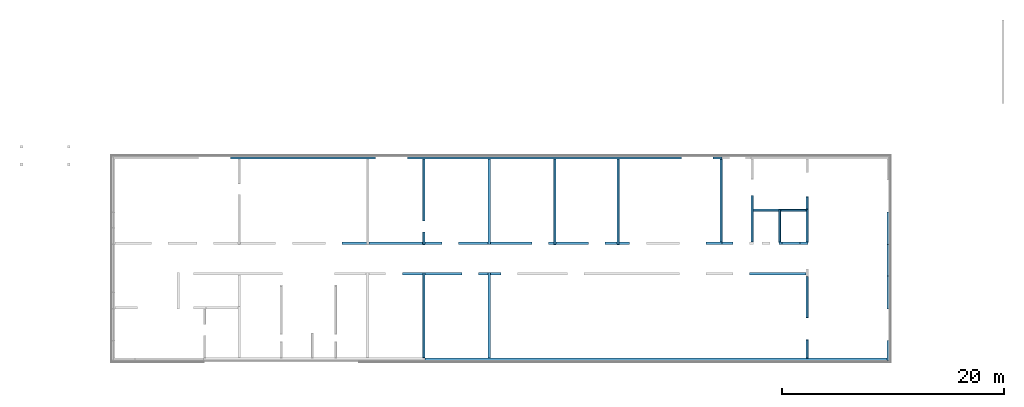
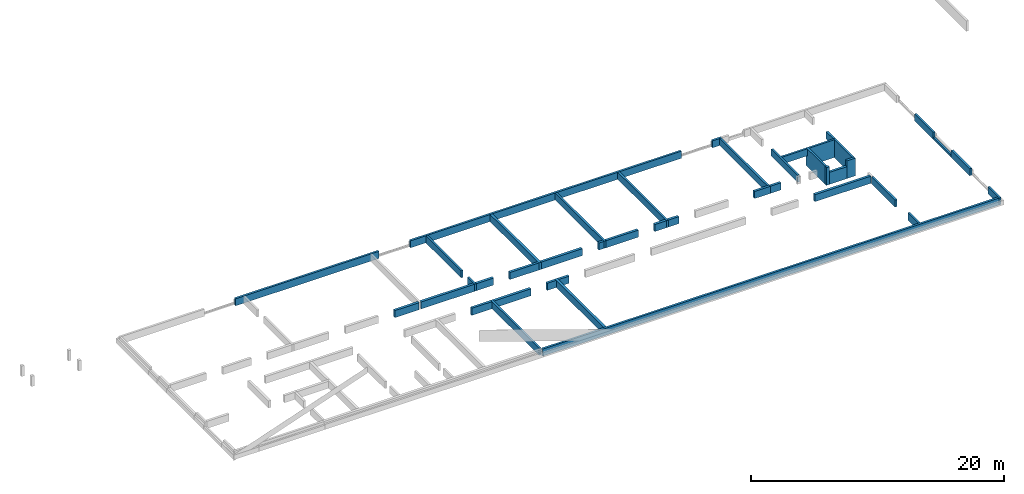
# One storey, part 3 of 7: 36 beams.
"""IFC2X3 building model written with IfcOpenShell, lengths in millimetres."""

from ifc_helpers import new_model, entity, si_unit, converted_unit, derived_unit, money_unit, direction, frame, origin_with_axes, place, context, subcontext, project, spatial, faceted_brep, material, type_object, element, save


model = new_model("IFC2X3")

# Units and contexts
model_context = context("Model", 3, precision=0.01, world=origin_with_axes(), true_north=direction((0.0, 1.0)))
body_context = subcontext(model_context, "Body", "Model", "MODEL_VIEW")
ifc_project = project(units=[si_unit("LENGTHUNIT", "METRE", prefix="MILLI"), si_unit("AREAUNIT", "SQUARE_METRE"), si_unit("VOLUMEUNIT", "CUBIC_METRE"), converted_unit("PLANEANGLEUNIT", "DEGREE", entity("IfcPlaneAngleMeasure", 0.0174532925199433), si_unit("PLANEANGLEUNIT", "RADIAN"), dimensions=[0, 0, 0, 0, 0, 0, 0]), money_unit("EUR"), converted_unit("TIMEUNIT", "Year", entity("IfcTimeMeasure", 31556926.0), si_unit("TIMEUNIT", "SECOND"), dimensions=[0, 0, 1, 0, 0, 0, 0]), si_unit("MASSUNIT", "GRAM", prefix="KILO"), si_unit("THERMODYNAMICTEMPERATUREUNIT", "DEGREE_CELSIUS"), si_unit("LUMINOUSINTENSITYUNIT", "LUMEN"), si_unit("ENERGYUNIT", "JOULE", prefix="MEGA"), derived_unit("THERMALCONDUCTANCEUNIT", [(si_unit("POWERUNIT", "WATT"), 1), (si_unit("LENGTHUNIT", "METRE"), -1), (si_unit("THERMODYNAMICTEMPERATUREUNIT", "KELVIN"), -1)]), derived_unit("SPECIFICHEATCAPACITYUNIT", [(si_unit("ENERGYUNIT", "JOULE"), 1), (si_unit("MASSUNIT", "GRAM", prefix="KILO"), -1), (si_unit("THERMODYNAMICTEMPERATUREUNIT", "KELVIN"), -1)]), derived_unit("MASSDENSITYUNIT", [(si_unit("MASSUNIT", "GRAM", prefix="KILO"), 1), (si_unit("VOLUMEUNIT", "CUBIC_METRE"), -1)])], contexts=[model_context])

# Site, building, storey
site_placement = place(None, origin_with_axes())
site = spatial("IfcSite", under=ifc_project, at=site_placement, Name="ÜBN Kinnistu Nimi -> SOLIBRI", CompositionType="ELEMENT")
building_placement = place(site_placement, origin_with_axes())
building = spatial("IfcBuilding", under=site, at=building_placement, Name="METK ARETUSKESKUS II", CompositionType="ELEMENT")
storey_placement = place(building_placement, frame((0.0, 0.0, -1610.0), z_axis=(0.0, 0.0, 1.0), x_axis=(1.0, 0.0, 0.0)))
storey = spatial("IfcBuildingStorey", under=building, at=storey_placement, Name="Vundament", CompositionType="ELEMENT", Elevation=-1610.0)

# Beams
ifc_material_1 = material(Name="31 Konst: raudbetoon monoliitne")
beam_type_1 = type_object("IfcBeamType", Name="31 Konst: raudbetoon monoliitne 180", PredefinedType="BEAM")
beam_1_placement = place(storey_placement, frame((47935.00000475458, 20080.0, 1330.0), z_axis=(0.0, 0.0, 1.0), x_axis=(0.0, 1.0, 0.0)))
element("IfcBeam", 1, at=beam_1_placement, inside=storey, type_object=beam_type_1, material=ifc_material_1, ObjectType="BEAM", context=body_context, shape_type="Brep", body=[
    faceted_brep([(7654.999958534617, 0.0, 680.0000000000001), (7654.999958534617, 179.9999999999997, 680.0000000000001), (0.0, 179.9999999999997, 680.0000000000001), (0.0, 0.0, 680.0000000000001), (7654.999958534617, 0.0, 0.0), (7654.999958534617, 179.9999999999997, 0.0), (0.0, 179.9999999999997, 0.0), (0.0, 0.0, 0.0)], [[[0, 1, 2, 3]], [[1, 0, 4, 5]], [[1, 5, 6, 2]], [[7, 3, 2, 6]], [[4, 0, 3, 7]], [[5, 4, 7, 6]]]),
])
beam_2_placement = place(storey_placement, frame((82485.00000572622, 23690.00000000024, 1330.0), z_axis=(0.0, 0.0, 1.0), x_axis=(0.0, 1.0, 0.0)))
element("IfcBeam", 2, at=beam_2_placement, inside=storey, type_object=beam_type_1, material=ifc_material_1, ObjectType="BEAM", context=body_context, shape_type="Brep", body=[
    faceted_brep([(0.0, 0.0, 0.0), (3714.999958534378, 0.0, 0.0), (3714.999958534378, 0.0, 680.0000000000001), (0.0, 0.0, 680.0000000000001), (0.0, 180.0000000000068, 0.0), (3714.999958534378, 180.0000000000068, 0.0), (3714.999958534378, 180.0000000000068, 680.0000000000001), (0.0, 180.0000000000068, 680.0000000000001)], [[[0, 1, 2, 3]], [[4, 5, 1, 0]], [[5, 6, 2, 1]], [[3, 2, 6, 7]], [[4, 0, 3, 7]], [[7, 6, 5, 4]]]),
])
beam_3_placement = place(storey_placement, frame((82485.00000572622, 20030.0, 1330.0), z_axis=(0.0, 0.0, 1.0), x_axis=(0.0, 1.0, 0.0)))
element("IfcBeam", 3, at=beam_3_placement, inside=storey, type_object=beam_type_1, material=ifc_material_1, ObjectType="BEAM", context=body_context, shape_type="Brep", body=[
    faceted_brep([(0.0, 0.0, 680.0000000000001), (1660.000000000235, 0.0, 680.0000000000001), (1660.000000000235, 180.0000000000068, 680.0000000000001), (0.0, 180.0000000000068, 680.0000000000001), (0.0, 0.0, 0.0), (1660.000000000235, 0.0, 0.0), (1660.000000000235, 180.0000000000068, 0.0), (0.0, 180.0000000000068, 0.0)], [[[0, 1, 2, 3]], [[4, 5, 1, 0]], [[2, 1, 5, 6]], [[3, 2, 6, 7]], [[4, 0, 3, 7]], [[7, 6, 5, 4]]]),
])
beam_4_placement = place(storey_placement, frame((82485.00000572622, 33464.94144067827, 1330.0), z_axis=(0.0, 0.0, 1.0), x_axis=(0.0, 1.0, 0.0)))
element("IfcBeam", 4, at=beam_4_placement, inside=storey, type_object=beam_type_1, material=ifc_material_1, ObjectType="BEAM", context=body_context, shape_type="Brep", body=[
    faceted_brep([(1105.058566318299, 180.0000000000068, 680.0000000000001), (0.0, 180.0000000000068, 680.0000000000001), (0.0, 0.0, 680.0000000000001), (1105.058566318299, 0.0, 680.0000000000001), (1105.058566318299, 180.0000000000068, 0.0), (0.0, 180.0000000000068, 0.0), (0.0, 0.0, 0.0), (1105.058566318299, 0.0, 0.0)], [[[0, 1, 2, 3]], [[4, 5, 1, 0]], [[1, 5, 6, 2]], [[3, 2, 6, 7]], [[7, 4, 0, 3]], [[7, 6, 5, 4]]]),
])
beam_5_placement = place(storey_placement, frame((47935.00000475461, 32400.00000683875, 1330.0), z_axis=(0.0, 0.0, 1.0), x_axis=(0.0, 1.0, 0.0)))
element("IfcBeam", 5, at=beam_5_placement, inside=storey, type_object=beam_type_1, material=ifc_material_1, ObjectType="BEAM", context=body_context, shape_type="Brep", body=[
    faceted_brep([(5570.000000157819, 0.0, 680.0000000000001), (5570.000000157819, 179.9999999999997, 680.0000000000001), (0.0, 179.9999999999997, 680.0000000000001), (0.0, 0.0, 680.0000000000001), (5570.000000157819, 0.0, 0.0), (5570.000000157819, 179.9999999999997, 0.0), (0.0, 179.9999999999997, 0.0), (0.0, 0.0, 0.0)], [[[0, 1, 2, 3]], [[1, 0, 4, 5]], [[1, 5, 6, 2]], [[7, 3, 2, 6]], [[4, 0, 3, 7]], [[5, 4, 7, 6]]]),
])
beam_6_placement = place(storey_placement, frame((77525.00000107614, 30265.00000683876, 1330.0), z_axis=(0.0, 0.0, 1.0), x_axis=(0.0, 1.0, 0.0)))
element("IfcBeam", 6, at=beam_6_placement, inside=storey, type_object=beam_type_1, material=ifc_material_1, ObjectType="BEAM", context=body_context, shape_type="Brep", body=[
    faceted_brep([(230.0000000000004, 0.0, 680.0000000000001), (4405.000000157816, 0.0, 680.0000000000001), (4405.000000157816, 180.0000000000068, 680.0000000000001), (230.0000000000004, 180.0000000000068, 680.0000000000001), (230.0000000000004, 0.0, 0.0), (4405.000000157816, 0.0, 0.0), (4405.000000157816, 180.0000000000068, 0.0), (230.0000000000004, 180.0000000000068, 0.0)], [[[0, 1, 2, 3]], [[4, 5, 1, 0]], [[2, 1, 5, 6]], [[3, 2, 6, 7]], [[4, 0, 3, 7]], [[7, 6, 5, 4]]]),
])
beam_7_placement = place(storey_placement, frame((82485.00000572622, 30265.00000683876, 310.0000000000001), z_axis=(0.0, 0.0, 1.0), x_axis=(0.0, 1.0, 0.0)))
element("IfcBeam", 7, at=beam_7_placement, inside=storey, type_object=beam_type_1, material=ifc_material_1, ObjectType="BEAM", context=body_context, shape_type="Brep", body=[
    faceted_brep([(230.0000000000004, 0.0, 1700.0), (230.0000000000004, 0.0, 0.0), (3199.941433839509, 0.0, 0.0), (3199.941433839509, 0.0, 1020.0), (3199.941433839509, 0.0, 1700.0), (230.0000000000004, 180.0000000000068, 0.0), (230.0000000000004, 180.0000000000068, 1700.0), (3199.941433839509, 180.0000000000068, 0.0), (3199.941433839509, 180.0000000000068, 1020.0), (3199.941433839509, 180.0000000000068, 1700.0)], [[[0, 1, 2, 3, 4]], [[5, 1, 0, 6]], [[1, 5, 7, 2]], [[2, 7, 8, 3]], [[9, 4, 3, 8]], [[6, 0, 4, 9]], [[6, 9, 8, 7, 5]]]),
])
beam_8_placement = place(storey_placement, frame((79835.00000107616, 30265.00000683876, 310.0000000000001), z_axis=(0.0, 0.0, 1.0), x_axis=(0.0, 1.0, 0.0)))
element("IfcBeam", 8, at=beam_8_placement, inside=storey, type_object=beam_type_1, material=ifc_material_1, ObjectType="BEAM", context=body_context, shape_type="Brep", body=[
    faceted_brep([(230.0000000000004, -180.0000000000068, 0.0), (3199.941433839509, -180.0000000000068, 0.0), (3199.941433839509, -180.0000000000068, 1020.0), (3199.941433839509, -180.0000000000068, 1700.0), (230.0000000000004, -180.0000000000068, 1700.0), (230.0000000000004, 0.0, 0.0), (3199.941433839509, 0.0, 0.0), (3199.941433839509, 0.0, 1020.0), (3199.941433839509, 0.0, 1700.0), (230.0000000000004, 0.0, 1700.0)], [[[0, 1, 2, 3, 4]], [[0, 5, 6, 1]], [[1, 6, 7, 2]], [[2, 7, 8, 3]], [[9, 4, 3, 8]], [[5, 0, 4, 9]], [[5, 9, 8, 7, 6]]]),
])
beam_9_placement = place(storey_placement, frame((47935.00000475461, 30265.00000683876, 1330.0), z_axis=(0.0, 0.0, 1.0), x_axis=(0.0, 1.0, 0.0)))
element("IfcBeam", 9, at=beam_9_placement, inside=storey, type_object=beam_type_1, material=ifc_material_1, ObjectType="BEAM", context=body_context, shape_type="Brep", body=[
    faceted_brep([(0.0, 0.0, 680.0000000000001), (1134.999999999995, 0.0, 680.0000000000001), (1134.999999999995, 179.9999999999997, 680.0000000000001), (0.0, 179.9999999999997, 680.0000000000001), (0.0, 0.0, 0.0), (1134.999999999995, 0.0, 0.0), (1134.999999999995, 179.9999999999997, 0.0), (0.0, 179.9999999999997, 0.0)], [[[0, 1, 2, 3]], [[4, 5, 1, 0]], [[2, 1, 5, 6]], [[3, 2, 6, 7]], [[4, 0, 3, 7]], [[7, 6, 5, 4]]]),
])
beam_10_placement = place(storey_placement, frame((65435.00000199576, 30265.00000683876, 1330.0), z_axis=(0.0, 0.0, 1.0), x_axis=(0.0, 1.0, 0.0)))
element("IfcBeam", 10, at=beam_10_placement, inside=storey, type_object=beam_type_1, material=ifc_material_1, ObjectType="BEAM", context=body_context, shape_type="Brep", body=[
    faceted_brep([(7705.000000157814, 0.0, 680.0000000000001), (7705.000000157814, 180.0000000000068, 680.0000000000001), (0.0, 180.0000000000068, 680.0000000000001), (0.0, 0.0, 680.0000000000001), (7705.000000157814, 0.0, 0.0), (7705.000000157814, 180.0000000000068, 0.0), (0.0, 180.0000000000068, 0.0), (0.0, 0.0, 0.0)], [[[0, 1, 2, 3]], [[1, 0, 4, 5]], [[1, 5, 6, 2]], [[7, 3, 2, 6]], [[4, 0, 3, 7]], [[5, 4, 7, 6]]]),
])
beam_11_placement = place(storey_placement, frame((79835.00000107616, 33464.9414406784, 1330.0), z_axis=(0.0, 0.0, 1.0), x_axis=(-1.0, 0.0, 0.0)))
element("IfcBeam", 11, at=beam_11_placement, inside=storey, type_object=beam_type_1, material=ifc_material_1, ObjectType="BEAM", context=body_context, shape_type="Brep", body=[
    faceted_brep([(2310.000000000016, 179.9999999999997, 680.0000000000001), (0.0, 179.9999999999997, 680.0), (0.0, 1.27897692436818e-10, 680.0), (2310.000000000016, 0.0, 680.0000000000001), (2310.000000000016, 179.9999999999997, 0.0), (0.0, 179.9999999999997, 0.0), (0.0, 1.27897692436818e-10, 0.0), (2310.000000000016, 0.0, 0.0)], [[[0, 1, 2, 3]], [[4, 5, 1, 0]], [[5, 6, 2, 1]], [[3, 2, 6, 7]], [[7, 4, 0, 3]], [[7, 6, 5, 4]]]),
])
beam_12_placement = place(storey_placement, frame((82485.00000572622, 33464.94144067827, 310.0000000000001), z_axis=(0.0, 0.0, 1.0), x_axis=(-1.0, 0.0, 0.0)))
element("IfcBeam", 12, at=beam_12_placement, inside=storey, type_object=beam_type_1, material=ifc_material_1, ObjectType="BEAM", context=body_context, shape_type="Brep", body=[
    faceted_brep([(2470.00000465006, 1.20792265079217e-10, 0.0), (2470.00000465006, 1.20792265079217e-10, 1700.0), (180.0000000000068, 0.0, 1700.0), (180.0000000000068, 0.0, 1020.0), (180.0000000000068, 0.0, 0.0), (2470.000004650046, 180.0000000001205, 0.0), (2470.000004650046, 180.0000000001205, 1700.0), (179.9999999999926, 180.0000000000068, 1700.0), (179.9999999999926, 180.0000000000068, 0.0)], [[[0, 1, 2, 3, 4]], [[5, 6, 1, 0]], [[2, 1, 6, 7]], [[7, 8, 4, 3, 2]], [[8, 5, 0, 4]], [[7, 6, 5, 8]]]),
])
beam_13_placement = place(storey_placement, frame((59735.00000291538, 30265.00000683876, 1330.0), z_axis=(0.0, 0.0, 1.0), x_axis=(0.0, 1.0, 0.0)))
element("IfcBeam", 13, at=beam_13_placement, inside=storey, type_object=beam_type_1, material=ifc_material_1, ObjectType="BEAM", context=body_context, shape_type="Brep", body=[
    faceted_brep([(7705.000000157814, 0.0, 680.0000000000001), (7705.000000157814, 179.9999999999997, 680.0000000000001), (0.0, 179.9999999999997, 680.0000000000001), (0.0, 0.0, 680.0000000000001), (7705.000000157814, 0.0, 0.0), (7705.000000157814, 179.9999999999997, 0.0), (0.0, 179.9999999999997, 0.0), (0.0, 0.0, 0.0)], [[[0, 1, 2, 3]], [[1, 0, 4, 5]], [[1, 5, 6, 2]], [[7, 3, 2, 6]], [[4, 0, 3, 7]], [[5, 4, 7, 6]]]),
])
beam_type_2 = type_object("IfcBeamType", Name="31 Konst: raudbetoon monoliitne 230", PredefinedType="BEAM")
beam_14_placement = place(storey_placement, frame((80125.00000107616, 30265.00000683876, 310.0000000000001), z_axis=(0.0, 0.0, 1.0), x_axis=(1.0, 0.0, 0.0)))
element("IfcBeam", 14, at=beam_14_placement, inside=storey, type_object=beam_type_2, material=ifc_material_1, ObjectType="BEAM", context=body_context, shape_type="Brep", body=[
    faceted_brep([(0.0, 0.0, 1150.0), (1600.000000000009, 0.0, 1150.0), (1600.000000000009, 230.0000000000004, 1150.0), (0.0, 230.0000000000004, 1150.0), (0.0, 0.0, 0.0), (1600.000000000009, 0.0, 0.0), (1600.000000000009, 230.0000000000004, 0.0), (0.0, 230.0000000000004, 0.0)], [[[0, 1, 2, 3]], [[4, 5, 1, 0]], [[2, 1, 5, 6]], [[3, 2, 6, 7]], [[4, 0, 3, 7]], [[7, 6, 5, 4]]]),
])
beam_15_placement = place(storey_placement, frame((53839.99999999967, 30265.00000683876, 1330.0), z_axis=(0.0, 0.0, 1.0), x_axis=(0.0, 1.0, 0.0)))
element("IfcBeam", 15, at=beam_15_placement, inside=storey, type_object=beam_type_2, material=ifc_material_1, ObjectType="BEAM", context=body_context, shape_type="Brep", body=[
    faceted_brep([(7705.000000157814, 0.0, 680.0000000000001), (7705.000000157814, 229.9999999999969, 680.0000000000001), (0.0, 229.9999999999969, 680.0000000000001), (0.0, 0.0, 680.0000000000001), (7705.000000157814, 0.0, 0.0), (7705.000000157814, 229.9999999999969, 0.0), (0.0, 229.9999999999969, 0.0), (0.0, 0.0, 0.0)], [[[0, 1, 2, 3]], [[1, 0, 4, 5]], [[1, 5, 6, 2]], [[7, 3, 2, 6]], [[4, 0, 3, 7]], [[5, 4, 7, 6]]]),
])
beam_16_placement = place(storey_placement, frame((74735.00000107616, 30265.00000683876, 1330.0), z_axis=(0.0, 0.0, 1.0), x_axis=(1.0, 0.0, 0.0)))
element("IfcBeam", 16, at=beam_16_placement, inside=storey, type_object=beam_type_2, material=ifc_material_1, ObjectType="BEAM", context=body_context, shape_type="Brep", body=[
    faceted_brep([(954.9999999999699, 230.0000000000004, 680.0000000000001), (0.0, 230.0000000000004, 680.0000000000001), (0.0, 0.0, 680.0000000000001), (954.9999999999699, 0.0, 680.0000000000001), (954.9999999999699, 230.0000000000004, 0.0), (0.0, 230.0000000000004, 0.0), (0.0, 0.0, 0.0), (954.9999999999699, 0.0, 0.0)], [[[0, 1, 2, 3]], [[4, 5, 1, 0]], [[1, 5, 6, 2]], [[3, 2, 6, 7]], [[7, 4, 0, 3]], [[7, 6, 5, 4]]]),
])
beam_17_placement = place(storey_placement, frame((53839.99997368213, 20030.0, 1330.0), z_axis=(0.0, 0.0, 1.0), x_axis=(0.0, 1.0, 0.0)))
element("IfcBeam", 17, at=beam_17_placement, inside=storey, type_object=beam_type_2, material=ifc_material_1, ObjectType="BEAM", context=body_context, shape_type="Brep", body=[
    faceted_brep([(7704.99995853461, 0.0, 680.0000000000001), (7704.99995853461, 229.9999999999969, 680.0000000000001), (0.0, 229.9999999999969, 680.0000000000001), (0.0, 0.0, 680.0000000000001), (7704.99995853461, 0.0, 0.0), (7704.99995853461, 229.9999999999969, 0.0), (0.0, 229.9999999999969, 0.0), (0.0, 0.0, 0.0)], [[[0, 1, 2, 3]], [[1, 0, 4, 5]], [[1, 5, 6, 2]], [[7, 3, 2, 6]], [[4, 0, 3, 7]], [[5, 4, 7, 6]]]),
])
beam_18_placement = place(storey_placement, frame((79830.00000107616, 30265.00000683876, 310.0000000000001), z_axis=(0.0, 0.0, 1.0), x_axis=(1.0, 0.0, 0.0)))
element("IfcBeam", 18, at=beam_18_placement, inside=storey, type_object=beam_type_2, material=ifc_material_1, ObjectType="BEAM", context=body_context, shape_type="Brep", body=[
    faceted_brep([(0.0, 0.0, 1700.0), (295.0000000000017, 0.0, 1700.0), (295.0000000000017, 230.0000000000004, 1700.0), (0.0, 230.0000000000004, 1700.0), (0.0, 0.0, 0.0), (295.0000000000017, 0.0, 0.0), (295.0000000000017, 230.0000000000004, 0.0), (0.0, 230.0000000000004, 0.0)], [[[0, 1, 2, 3]], [[4, 5, 1, 0]], [[2, 1, 5, 6]], [[3, 2, 6, 7]], [[4, 0, 3, 7]], [[7, 6, 5, 4]]]),
])
beam_19_placement = place(storey_placement, frame((81725.00000107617, 30265.00000683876, 310.0000000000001), z_axis=(0.0, 0.0, 1.0), x_axis=(1.0, 0.0, 0.0)))
element("IfcBeam", 19, at=beam_19_placement, inside=storey, type_object=beam_type_2, material=ifc_material_1, ObjectType="BEAM", context=body_context, shape_type="Brep", body=[
    faceted_brep([(760.0000046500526, 0.0, 1700.0), (760.0000046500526, 230.0000000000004, 1700.0), (0.0, 230.0000000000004, 1700.0), (0.0, 0.0, 1700.0), (760.0000046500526, 0.0, 0.0), (760.0000046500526, 230.0000000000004, 0.0), (0.0, 230.0000000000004, 0.0), (0.0, 0.0, 0.0)], [[[0, 1, 2, 3]], [[1, 0, 4, 5]], [[1, 5, 6, 2]], [[7, 3, 2, 6]], [[4, 0, 3, 7]], [[5, 4, 7, 6]]]),
])
beam_type_3 = type_object("IfcBeamType", Name="31 Konst: raudbetoon monoliitne 190", PredefinedType="BEAM")
beam_20_placement = place(storey_placement, frame((89569.99991283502, 27420.00000000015, 1330.0), z_axis=(0.0, 0.0, 1.0), x_axis=(0.0, -1.0, 0.0)))
element("IfcBeam", 20, at=beam_20_placement, inside=storey, type_object=beam_type_3, material=ifc_material_1, ObjectType="BEAM", context=body_context, shape_type="Brep", body=[
    faceted_brep([(0.0, 0.0, 680.0000000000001), (2939.999935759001, 0.0, 680.0000000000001), (2939.999935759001, 189.9999999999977, 680.0000000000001), (0.0, 189.9999999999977, 680.0000000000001), (0.0, 0.0, 0.0), (2939.999935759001, 0.0, 0.0), (2939.999935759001, 189.9999999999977, 0.0), (0.0, 189.9999999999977, 0.0)], [[[0, 1, 2, 3]], [[4, 5, 1, 0]], [[2, 1, 5, 6]], [[3, 2, 6, 7]], [[4, 0, 3, 7]], [[7, 6, 5, 4]]]),
])
beam_21_placement = place(storey_placement, frame((71049.99999999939, 37970.00000699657, 1330.0), z_axis=(0.0, 0.0, 1.0), x_axis=(-1.0, 0.0, 0.0)))
element("IfcBeam", 21, at=beam_21_placement, inside=storey, type_object=beam_type_3, material=ifc_material_1, ObjectType="BEAM", context=body_context, shape_type="Brep", body=[
    faceted_brep([(0.0, 0.0, 0.0), (24689.99303513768, 0.0, 0.0), (24689.99303513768, -190.0000000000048, 0.0), (0.0, -189.9999999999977, 0.0), (0.0, 0.0, 680.0000000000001), (24689.99303513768, 0.0, 680.0000000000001), (24689.99303513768, -190.0000000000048, 680.0000000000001), (0.0, -189.9999999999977, 680.0000000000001)], [[[0, 1, 2, 3]], [[4, 5, 1, 0]], [[2, 1, 5, 6]], [[3, 2, 6, 7]], [[4, 0, 3, 7]], [[7, 6, 5, 4]]]),
])
beam_22_placement = place(storey_placement, frame((43500.00690052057, 37970.00000699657, 1330.0), z_axis=(0.0, 0.0, 1.0), x_axis=(-1.0, 0.0, 0.0)))
element("IfcBeam", 22, at=beam_22_placement, inside=storey, type_object=beam_type_3, material=ifc_material_1, ObjectType="BEAM", context=body_context, shape_type="Brep", body=[
    faceted_brep([(0.0, 0.0, 0.0), (13090.00683617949, 0.0, 0.0), (13090.00683617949, -189.9999999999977, 0.0), (0.0, -189.9999999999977, 0.0), (0.0, 0.0, 680.0000000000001), (13090.00683617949, 0.0, 680.0000000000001), (13090.00683617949, -189.9999999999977, 680.0000000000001), (0.0, -189.9999999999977, 680.0000000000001)], [[[0, 1, 2, 3]], [[4, 5, 1, 0]], [[2, 1, 5, 6]], [[3, 2, 6, 7]], [[4, 0, 3, 7]], [[7, 6, 5, 4]]]),
])
beam_23_placement = place(storey_placement, frame((89569.99991283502, 21619.99993575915, 1330.0), z_axis=(0.0, 0.0, 1.0), x_axis=(0.0, -1.0, 0.0)))
element("IfcBeam", 23, at=beam_23_placement, inside=storey, type_object=beam_type_3, material=ifc_material_1, ObjectType="BEAM", context=body_context, shape_type="Brep", body=[
    faceted_brep([(1779.999935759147, 0.0, 680.0000000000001), (1779.999935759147, 189.9999999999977, 680.0000000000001), (0.0, 189.9999999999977, 680.0000000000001), (0.0, 0.0, 680.0000000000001), (1779.999935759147, 0.0, 0.0), (1779.999935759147, 189.9999999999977, 0.0), (0.0, 189.9999999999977, 0.0), (0.0, 0.0, 0.0)], [[[0, 1, 2, 3]], [[1, 0, 4, 5]], [[1, 5, 6, 2]], [[7, 3, 2, 6]], [[4, 0, 3, 7]], [[5, 4, 7, 6]]]),
])
beam_24_placement = place(storey_placement, frame((47940.00000288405, 20030.0, 1330.0), z_axis=(0.0, 0.0, 1.0), x_axis=(1.0, 0.0, 0.0)))
element("IfcBeam", 24, at=beam_24_placement, inside=storey, type_object=beam_type_3, material=ifc_material_1, ObjectType="BEAM", context=body_context, shape_type="Brep", body=[
    faceted_brep([(41629.99990995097, 0.0, 0.0), (41629.99990995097, -189.9999999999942, 0.0), (0.0, -190.0000000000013, 0.0), (0.0, 0.0, 0.0), (41629.99990995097, 0.0, 680.0000000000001), (41629.99990995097, -189.9999999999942, 680.0000000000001), (0.0, -190.0000000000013, 680.0000000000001), (0.0, 0.0, 680.0000000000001)], [[[0, 1, 2, 3]], [[1, 0, 4, 5]], [[1, 5, 6, 2]], [[7, 3, 2, 6]], [[4, 0, 3, 7]], [[5, 4, 7, 6]]]),
])
beam_25_placement = place(storey_placement, frame((89569.99991283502, 33219.99993575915, 1330.0), z_axis=(0.0, 0.0, 1.0), x_axis=(0.0, -1.0, 0.0)))
element("IfcBeam", 25, at=beam_25_placement, inside=storey, type_object=beam_type_3, material=ifc_material_1, ObjectType="BEAM", context=body_context, shape_type="Brep", body=[
    faceted_brep([(0.0, 0.0, 680.0000000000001), (2939.999935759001, 0.0, 680.0000000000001), (2939.999935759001, 189.9999999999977, 680.0000000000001), (0.0, 189.9999999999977, 680.0000000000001), (0.0, 0.0, 0.0), (2939.999935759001, 0.0, 0.0), (2939.999935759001, 189.9999999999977, 0.0), (0.0, 189.9999999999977, 0.0)], [[[0, 1, 2, 3]], [[4, 5, 1, 0]], [[2, 1, 5, 6]], [[3, 2, 6, 7]], [[4, 0, 3, 7]], [[7, 6, 5, 4]]]),
])
beam_26_placement = place(storey_placement, frame((74735.00000107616, 37970.00000699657, 1330.0), z_axis=(0.0, 0.0, 1.0), x_axis=(-1.0, 0.0, 0.0)))
element("IfcBeam", 26, at=beam_26_placement, inside=storey, type_object=beam_type_3, material=ifc_material_1, ObjectType="BEAM", context=body_context, shape_type="Brep", body=[
    faceted_brep([(824.9999367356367, -189.9999999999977, 0.0), (0.0, -189.9999999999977, 0.0), (0.0, 0.0, 0.0), (824.9999367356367, 0.0, 0.0), (824.9999367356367, -189.9999999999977, 680.0000000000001), (0.0, -189.9999999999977, 680.0000000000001), (0.0, 0.0, 680.0000000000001), (824.9999367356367, 0.0, 680.0000000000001)], [[[0, 1, 2, 3]], [[4, 5, 1, 0]], [[1, 5, 6, 2]], [[3, 2, 6, 7]], [[7, 4, 0, 3]], [[7, 6, 5, 4]]]),
])
beam_27_placement = place(storey_placement, frame((89569.99991283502, 30280.00000000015, 1330.0), z_axis=(0.0, 0.0, 1.0), x_axis=(0.0, -1.0, 0.0)))
element("IfcBeam", 27, at=beam_27_placement, inside=storey, type_object=beam_type_3, material=ifc_material_1, ObjectType="BEAM", context=body_context, shape_type="Brep", body=[
    faceted_brep([(0.0, 0.0, 179.9999999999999), (2860.000000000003, 0.0, 179.9999999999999), (2860.000000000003, 189.9999999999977, 179.9999999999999), (0.0, 189.9999999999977, 179.9999999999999), (0.0, 0.0, 0.0), (2860.000000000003, 0.0, 0.0), (2860.000000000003, 189.9999999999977, 0.0), (0.0, 189.9999999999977, 0.0)], [[[0, 1, 2, 3]], [[4, 5, 1, 0]], [[2, 1, 5, 6]], [[3, 2, 6, 7]], [[4, 0, 3, 7]], [[7, 6, 5, 4]]]),
])
ifc_material_2 = material(Name="80 Siseviim: tolmutõke")
beam_type_4 = type_object("IfcBeamType", Name="80 Siseviim: tolmutõke 230", PredefinedType="BEAM")
beam_28_placement = place(storey_placement, frame((52789.99999999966, 27734.99995853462, 1330.0), z_axis=(0.0, 0.0, 1.0), x_axis=(1.0, 0.0, 0.0)))
element("IfcBeam", 28, at=beam_28_placement, inside=storey, type_object=beam_type_4, material=ifc_material_2, ObjectType="BEAM", context=body_context, shape_type="Brep", body=[
    faceted_brep([(819.999973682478, 0.0, 0.0), (819.999973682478, -230.0000000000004, 0.0), (0.0, -230.0000000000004, 0.0), (0.0, 0.0, 0.0), (819.999973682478, 0.0, 680.0000000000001), (819.999973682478, -230.0000000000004, 680.0000000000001), (0.0, -230.0000000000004, 680.0000000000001), (0.0, 0.0, 680.0000000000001)], [[[0, 1, 2, 3]], [[1, 0, 4, 5]], [[1, 5, 6, 2]], [[7, 3, 2, 6]], [[4, 0, 3, 7]], [[5, 4, 7, 6]]]),
    faceted_brep([(1049.999973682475, 0.0, 0.0), (1999.999999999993, 0.0, 0.0), (1999.999999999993, -230.0000000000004, 0.0), (1049.999973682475, -230.0000000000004, 0.0), (1049.999973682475, 0.0, 680.0000000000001), (1999.999999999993, 0.0, 680.0000000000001), (1999.999999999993, -230.0000000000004, 680.0000000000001), (1049.999973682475, -230.0000000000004, 680.0000000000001)], [[[0, 1, 2, 3]], [[4, 5, 1, 0]], [[2, 1, 5, 6]], [[3, 2, 6, 7]], [[4, 0, 3, 7]], [[7, 6, 5, 4]]]),
])
beam_29_placement = place(storey_placement, frame((77190.00000107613, 27734.99995853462, 1330.0), z_axis=(0.0, 0.0, 1.0), x_axis=(1.0, 0.0, 0.0)))
element("IfcBeam", 29, at=beam_29_placement, inside=storey, type_object=beam_type_4, material=ifc_material_2, ObjectType="BEAM", context=body_context, shape_type="Brep", body=[
    faceted_brep([(0.0, 0.0, 0.0), (5115.000004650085, 0.0, 0.0), (5115.000004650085, -230.0000000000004, 0.0), (0.0, -230.0000000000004, 0.0), (0.0, 0.0, 680.0000000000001), (5115.000004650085, 0.0, 680.0000000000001), (5115.000004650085, -230.0000000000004, 680.0000000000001), (0.0, -230.0000000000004, 680.0000000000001)], [[[0, 1, 2, 3]], [[4, 5, 1, 0]], [[6, 2, 1, 5]], [[3, 2, 6, 7]], [[7, 4, 0, 3]], [[7, 6, 5, 4]]]),
])
beam_30_placement = place(storey_placement, frame((45909.99996450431, 27734.99995853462, 1330.0), z_axis=(0.0, 0.0, 1.0), x_axis=(1.0, 0.0, 0.0)))
element("IfcBeam", 30, at=beam_30_placement, inside=storey, type_object=beam_type_4, material=ifc_material_2, ObjectType="BEAM", context=body_context, shape_type="Brep", body=[
    faceted_brep([(1845.00004025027, 0.0, 0.0), (1845.00004025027, -230.0000000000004, 0.0), (0.0, -230.0000000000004, 0.0), (0.0, 0.0, 0.0), (1845.00004025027, 0.0, 680.0000000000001), (1845.00004025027, -230.0000000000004, 680.0000000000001), (0.0, -230.0000000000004, 680.0000000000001), (0.0, 0.0, 680.0000000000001)], [[[0, 1, 2, 3]], [[1, 0, 4, 5]], [[1, 5, 6, 2]], [[7, 3, 2, 6]], [[4, 0, 3, 7]], [[5, 4, 7, 6]]]),
    faceted_brep([(2025.000040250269, 0.0, 0.0), (5380.000035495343, 0.0, 0.0), (5380.000035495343, -230.0000000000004, 0.0), (2025.000040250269, -230.0000000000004, 0.0), (2025.000040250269, 0.0, 680.0000000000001), (5380.000035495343, 0.0, 680.0000000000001), (5380.000035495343, -230.0000000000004, 680.0000000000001), (2025.000040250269, -230.0000000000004, 680.0000000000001)], [[[0, 1, 2, 3]], [[4, 5, 1, 0]], [[2, 1, 5, 6]], [[3, 2, 6, 7]], [[4, 0, 3, 7]], [[7, 6, 5, 4]]]),
])
beam_31_placement = place(storey_placement, frame((40490.00000285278, 30265.00000683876, 1330.0), z_axis=(0.0, 0.0, 1.0), x_axis=(1.0, 0.0, 0.0)))
element("IfcBeam", 31, at=beam_31_placement, inside=storey, type_object=beam_type_4, material=ifc_material_2, ObjectType="BEAM", context=body_context, shape_type="Brep", body=[
    faceted_brep([(2215.000000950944, 0.0, 680.0000000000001), (2215.000000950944, 230.0000000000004, 680.0000000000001), (0.0, 230.0000000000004, 680.0000000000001), (0.0, 0.0, 680.0000000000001), (2215.000000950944, 0.0, 0.0), (2215.000000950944, 230.0000000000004, 0.0), (0.0, 230.0000000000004, 0.0), (0.0, 0.0, 0.0)], [[[0, 1, 2, 3]], [[1, 0, 4, 5]], [[1, 5, 6, 2]], [[7, 3, 2, 6]], [[4, 0, 3, 7]], [[5, 4, 7, 6]]]),
    faceted_brep([(7265.000001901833, 0.0, 680.0000000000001), (7265.000001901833, 230.0000000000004, 680.0000000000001), (2395.000000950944, 230.0000000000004, 680.0000000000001), (2395.000000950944, 0.0, 680.0000000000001), (7265.000001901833, 0.0, 0.0), (7265.000001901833, 230.0000000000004, 0.0), (2395.000000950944, 230.0000000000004, 0.0), (2395.000000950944, 0.0, 0.0)], [[[0, 1, 2, 3]], [[1, 0, 4, 5]], [[1, 5, 6, 2]], [[7, 3, 2, 6]], [[4, 0, 3, 7]], [[5, 4, 7, 6]]]),
    faceted_brep([(7445.000001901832, 0.0, 680.0000000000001), (9000.000001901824, 0.0, 680.0000000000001), (9000.000001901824, 230.0000000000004, 680.0000000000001), (7445.000001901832, 230.0000000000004, 680.0000000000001), (7445.000001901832, 0.0, 0.0), (9000.000001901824, 0.0, 0.0), (9000.000001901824, 230.0000000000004, 0.0), (7445.000001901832, 230.0000000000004, 0.0)], [[[0, 1, 2, 3]], [[4, 5, 1, 0]], [[2, 1, 5, 6]], [[3, 2, 6, 7]], [[4, 0, 3, 7]], [[7, 6, 5, 4]]]),
])
beam_32_placement = place(storey_placement, frame((50989.55187725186, 30265.00000683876, 1330.0), z_axis=(0.0, 0.0, 1.0), x_axis=(1.0, 0.0, 0.0)))
element("IfcBeam", 32, at=beam_32_placement, inside=storey, type_object=beam_type_4, material=ifc_material_2, ObjectType="BEAM", context=body_context, shape_type="Brep", body=[
    faceted_brep([(2620.44812274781, 0.0, 680.0000000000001), (2620.44812274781, 230.0000000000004, 680.0000000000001), (0.0, 230.0000000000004, 680.0000000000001), (0.0, 0.0, 680.0000000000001), (2620.44812274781, 0.0, 0.0), (2620.44812274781, 230.0000000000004, 0.0), (0.0, 230.0000000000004, 0.0), (0.0, 0.0, 0.0)], [[[0, 1, 2, 3]], [[1, 0, 4, 5]], [[1, 5, 6, 2]], [[7, 3, 2, 6]], [[4, 0, 3, 7]], [[5, 4, 7, 6]]]),
    faceted_brep([(2850.448122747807, 0.0, 680.0000000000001), (6600.448125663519, 0.0, 680.0000000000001), (6600.448125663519, 230.0000000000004, 680.0000000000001), (2850.448122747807, 230.0000000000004, 680.0000000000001), (2850.448122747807, 0.0, 0.0), (6600.448125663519, 0.0, 0.0), (6600.448125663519, 230.0000000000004, 0.0), (2850.448122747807, 230.0000000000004, 0.0)], [[[0, 1, 2, 3]], [[4, 5, 1, 0]], [[2, 1, 5, 6]], [[3, 2, 6, 7]], [[4, 0, 3, 7]], [[7, 6, 5, 4]]]),
])
beam_33_placement = place(storey_placement, frame((64190.00000199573, 30265.00000683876, 1330.0), z_axis=(0.0, 0.0, 1.0), x_axis=(1.0, 0.0, 0.0)))
element("IfcBeam", 33, at=beam_33_placement, inside=storey, type_object=beam_type_4, material=ifc_material_2, ObjectType="BEAM", context=body_context, shape_type="Brep", body=[
    faceted_brep([(1065.000000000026, 0.0, 680.0000000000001), (1065.000000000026, 230.0000000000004, 680.0000000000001), (0.0, 230.0000000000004, 680.0000000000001), (0.0, 0.0, 680.0000000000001), (1065.000000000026, 0.0, 0.0), (1065.000000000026, 230.0000000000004, 0.0), (0.0, 230.0000000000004, 0.0), (0.0, 0.0, 0.0)], [[[0, 1, 2, 3]], [[1, 0, 4, 5]], [[1, 5, 6, 2]], [[7, 3, 2, 6]], [[4, 0, 3, 7]], [[5, 4, 7, 6]]]),
    faceted_brep([(1245.000000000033, 0.0, 680.0000000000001), (2200.000000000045, 0.0, 680.0000000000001), (2200.000000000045, 230.0000000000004, 680.0000000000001), (1245.000000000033, 230.0000000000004, 680.0000000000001), (1245.000000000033, 0.0, 0.0), (2200.000000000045, 0.0, 0.0), (2200.000000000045, 230.0000000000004, 0.0), (1245.000000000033, 230.0000000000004, 0.0)], [[[0, 1, 2, 3]], [[4, 5, 1, 0]], [[2, 1, 5, 6]], [[3, 2, 6, 7]], [[4, 0, 3, 7]], [[7, 6, 5, 4]]]),
])
beam_34_placement = place(storey_placement, frame((73289.99999999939, 30265.00000683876, 1330.0), z_axis=(0.0, 0.0, 1.0), x_axis=(1.0, 0.0, 0.0)))
element("IfcBeam", 34, at=beam_34_placement, inside=storey, type_object=beam_type_4, material=ifc_material_2, ObjectType="BEAM", context=body_context, shape_type="Brep", body=[
    faceted_brep([(1445.000001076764, 230.0000000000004, 680.0000000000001), (0.0, 230.0000000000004, 680.0000000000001), (0.0, 0.0, 680.0000000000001), (1445.000001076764, 0.0, 680.0000000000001), (1445.000001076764, 230.0000000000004, 0.0), (0.0, 230.0000000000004, 0.0), (0.0, 0.0, 0.0), (1445.000001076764, 0.0, 0.0)], [[[0, 1, 2, 3]], [[4, 5, 1, 0]], [[1, 5, 6, 2]], [[3, 2, 6, 7]], [[7, 4, 0, 3]], [[7, 6, 5, 4]]]),
])
beam_35_placement = place(storey_placement, frame((59090.00000291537, 30265.00000683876, 1330.0), z_axis=(0.0, 0.0, 1.0), x_axis=(1.0, 0.0, 0.0)))
element("IfcBeam", 35, at=beam_35_placement, inside=storey, type_object=beam_type_4, material=ifc_material_2, ObjectType="BEAM", context=body_context, shape_type="Brep", body=[
    faceted_brep([(465.0000000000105, 0.0, 680.0000000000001), (465.0000000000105, 230.0000000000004, 680.0000000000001), (0.0, 230.0000000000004, 680.0000000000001), (0.0, 0.0, 680.0000000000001), (465.0000000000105, 0.0, 0.0), (465.0000000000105, 230.0000000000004, 0.0), (0.0, 230.0000000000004, 0.0), (0.0, 0.0, 0.0)], [[[0, 1, 2, 3]], [[1, 0, 4, 5]], [[1, 5, 6, 2]], [[7, 3, 2, 6]], [[4, 0, 3, 7]], [[5, 4, 7, 6]]]),
    faceted_brep([(645.0000000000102, 0.0, 680.0000000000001), (3599.999999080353, 0.0, 680.0000000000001), (3599.999999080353, 230.0000000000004, 680.0000000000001), (645.0000000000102, 230.0000000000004, 680.0000000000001), (645.0000000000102, 0.0, 0.0), (3599.999999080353, 0.0, 0.0), (3599.999999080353, 230.0000000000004, 0.0), (645.0000000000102, 230.0000000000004, 0.0)], [[[0, 1, 2, 3]], [[4, 5, 1, 0]], [[2, 1, 5, 6]], [[3, 2, 6, 7]], [[4, 0, 3, 7]], [[7, 6, 5, 4]]]),
])
beam_type_5 = type_object("IfcBeamType", Name="80 Siseviim: tolmutõke 180", PredefinedType="BEAM")
beam_36_placement = place(storey_placement, frame((74735.00000107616, 30265.00000683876, 1330.0), z_axis=(0.0, 0.0, 1.0), x_axis=(0.0, 1.0, 0.0)))
element("IfcBeam", 36, at=beam_36_placement, inside=storey, type_object=beam_type_5, material=ifc_material_2, ObjectType="BEAM", context=body_context, shape_type="Brep", body=[
    faceted_brep([(230.0000000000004, 0.0, 0.0), (7705.000000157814, 0.0, 0.0), (7705.000000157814, 0.0, 680.0000000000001), (230.0000000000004, 0.0, 680.0000000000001), (230.0000000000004, 180.0000000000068, 0.0), (7705.000000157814, 180.0000000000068, 0.0), (7705.000000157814, 180.0000000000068, 680.0000000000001), (230.0000000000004, 180.0000000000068, 680.0000000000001)], [[[0, 1, 2, 3]], [[4, 5, 1, 0]], [[5, 6, 2, 1]], [[3, 2, 6, 7]], [[0, 3, 7, 4]], [[7, 6, 5, 4]]]),
])

save(model, "model.ifc")
